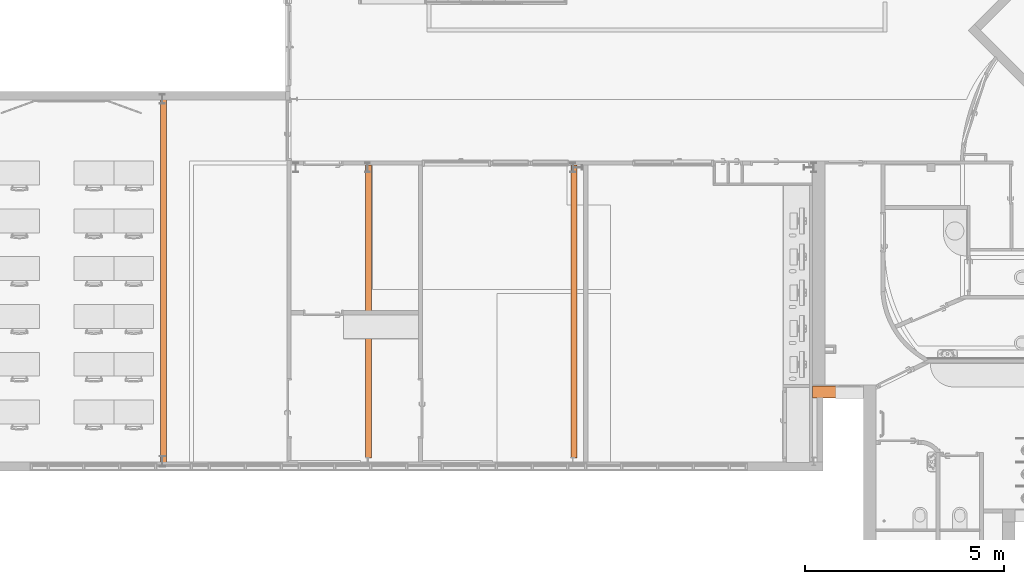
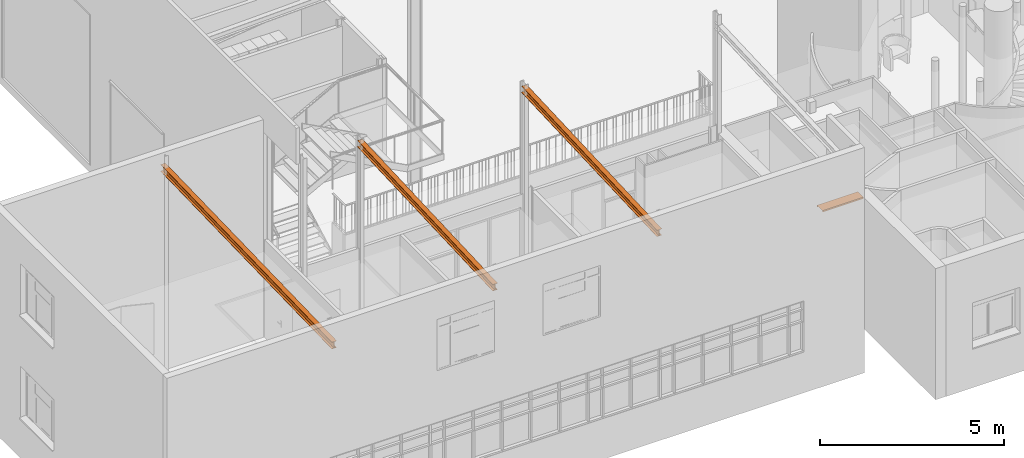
# One storey, part 127 of 137: 4 proxies.
"""IFC2X3 building model written with IfcOpenShell, lengths in centimetres."""

from ifc_helpers import new_model, entity, si_unit, converted_unit, derived_unit, direction, frame, frame_2d, origin, place, context, subcontext, project, spatial, polyline, rectangle, outline, extrude, source, transform, mapped, element, save


model = new_model("IFC2X3")

# Units and contexts
model_context = context("Model", 3, precision=0.001, world=origin(), true_north=direction((6.12303176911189e-17, 1.0)))
body_context = subcontext(model_context, "Body", "Model", "MODEL_VIEW")
ifc_project = project(units=[si_unit("LENGTHUNIT", "METRE", prefix="CENTI"), si_unit("AREAUNIT", "SQUARE_METRE"), si_unit("VOLUMEUNIT", "CUBIC_METRE"), converted_unit("PLANEANGLEUNIT", "DEGREE", entity("IfcRatioMeasure", 0.0174532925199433), si_unit("PLANEANGLEUNIT", "RADIAN"), dimensions=[0, 0, 0, 0, 0, 0, 0]), si_unit("MASSUNIT", "GRAM", prefix="KILO"), si_unit("TIMEUNIT", "SECOND"), si_unit("FREQUENCYUNIT", "HERTZ"), si_unit("THERMODYNAMICTEMPERATUREUNIT", "DEGREE_CELSIUS"), derived_unit("THERMALTRANSMITTANCEUNIT", [(si_unit("MASSUNIT", "GRAM", prefix="KILO"), 1), (si_unit("THERMODYNAMICTEMPERATUREUNIT", "KELVIN"), -1), (si_unit("TIMEUNIT", "SECOND"), -3)]), derived_unit("VOLUMETRICFLOWRATEUNIT", [(si_unit("LENGTHUNIT", "METRE"), 3), (si_unit("TIMEUNIT", "SECOND"), -1)]), si_unit("ELECTRICCURRENTUNIT", "AMPERE"), si_unit("ELECTRICVOLTAGEUNIT", "VOLT"), si_unit("POWERUNIT", "WATT"), si_unit("FORCEUNIT", "NEWTON", prefix="KILO"), si_unit("ILLUMINANCEUNIT", "LUX"), si_unit("LUMINOUSFLUXUNIT", "LUMEN"), si_unit("LUMINOUSINTENSITYUNIT", "CANDELA"), derived_unit("USERDEFINED", [(si_unit("MASSUNIT", "GRAM", prefix="KILO"), -1), (si_unit("LENGTHUNIT", "METRE"), -2), (si_unit("TIMEUNIT", "SECOND"), 3), (si_unit("LUMINOUSFLUXUNIT", "LUMEN"), 1)]), derived_unit("LINEARVELOCITYUNIT", [(si_unit("LENGTHUNIT", "METRE"), 1), (si_unit("TIMEUNIT", "SECOND"), -1)]), si_unit("PRESSUREUNIT", "PASCAL"), derived_unit("USERDEFINED", [(si_unit("LENGTHUNIT", "METRE"), -2), (si_unit("MASSUNIT", "GRAM", prefix="KILO"), 1), (si_unit("TIMEUNIT", "SECOND"), -2)])], contexts=[model_context])

# Site, building, storey
site_placement = place(None, frame((8.62739174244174, -249.285249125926, 0.0)))
site = spatial("IfcSite", under=ifc_project, at=site_placement, Name="Default", CompositionType="ELEMENT")
building_placement = place(site_placement, origin())
building = spatial("IfcBuilding", under=site, at=building_placement, CompositionType="ELEMENT")
storey_placement = place(building_placement, origin())
storey = spatial("IfcBuildingStorey", under=building, at=storey_placement, Name="RDC", CompositionType="ELEMENT", Elevation=-8.82465566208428e-11)

# Proxies
shared_shape_1 = source(origin(), body_context, "Body", "SweptSolid", [
    extrude(rectangle(XDim=0.99999999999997, YDim=14.9999999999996, at=frame_2d((2.66453525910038e-15, 4.44089209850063e-16), x_axis=(1.0, 0.0))), frame((-464.999102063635, -0.499999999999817, -4.72502125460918), z_axis=(0.999390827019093, 0.0, 0.0348994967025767), x_axis=(0.0348994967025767, 0.0, -0.999390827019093)), (0.0, 0.0, 1.0), 930.600000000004),
    extrude(rectangle(XDim=0.999999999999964, YDim=14.9999999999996, at=frame_2d((9.43689570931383e-16, 0.0), x_axis=(1.0, 0.0))), frame((-464.231313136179, -0.499999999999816, -26.7116194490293), z_axis=(0.999390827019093, 0.0, 0.0348994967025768), x_axis=(0.0348994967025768, 0.0, -0.999390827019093)), (0.0, 0.0, 1.0), 930.600000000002),
    extrude(rectangle(XDim=21.0, YDim=1.00000000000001, at=frame_2d((0.0, 8.88178419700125e-16), x_axis=(0.0, 1.0))), frame((-464.615207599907, -0.499999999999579, -15.7183203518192), z_axis=(0.999390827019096, 0.0, 0.0348994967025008), x_axis=(0.0, 1.0, 0.0)), (0.0, 0.0, 1.0), 930.600000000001),
])
proxy_1_placement = place(storey_placement, frame((533.404827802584, 480.134608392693, 649.226972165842), z_axis=(0.0, 0.00748008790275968, 0.999972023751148), x_axis=(0.0, 0.999972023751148, -0.00748008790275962)))
element("IfcBuildingElementProxy", 1, at=proxy_1_placement, inside=storey, Name="Portique_H:Portique_H", ObjectType="Portique_H", context=body_context, shape_type="MappedRepresentation", body=[
    mapped(shared_shape_1, transform((0.0, 0.0, 0.0), scale=1.0)),
])
shared_shape_2 = source(origin(), body_context, "Body", "SweptSolid", [
    extrude(rectangle(XDim=0.999999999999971, YDim=14.9999999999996, at=frame_2d((0.0, 4.44089209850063e-16), x_axis=(1.0, 0.0))), frame((-464.999102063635, -0.499999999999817, -4.72502125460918), z_axis=(0.999390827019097, 0.0, 0.0348994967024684), x_axis=(0.0348994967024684, 0.0, -0.999390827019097)), (0.0, 0.0, 1.0), 736.399999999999),
    extrude(rectangle(XDim=0.999999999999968, YDim=14.9999999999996, at=frame_2d((-2.58126853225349e-15, 0.0), x_axis=(1.0, 0.0))), frame((-464.266212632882, -0.499999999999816, -25.7122286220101), z_axis=(0.999390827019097, 0.0, 0.0348994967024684), x_axis=(0.0348994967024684, 0.0, -0.999390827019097)), (0.0, 0.0, 1.0), 736.399999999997),
    extrude(rectangle(XDim=20.0, YDim=1.00000000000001, at=frame_2d((0.0, 1.77635683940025e-15), x_axis=(0.0, 1.0))), frame((-464.632657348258, -0.499999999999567, -15.2186249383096), z_axis=(0.999390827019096, 0.0, 0.0348994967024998), x_axis=(0.0, 1.0, 0.0)), (0.0, 0.0, 1.0), 736.4),
])
for number, where, z_axis, x_axis in (
    (2, (1048.40482780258, 497.86000286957, 657.025230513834), (0.0, -0.00923739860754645, 0.999957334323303), (0.0, 0.999957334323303, 0.00923739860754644)),
    (3, (1563.40482780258, 497.860002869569, 657.025230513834), (0.0, -0.00923739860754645, 0.999957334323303), (0.0, 0.999957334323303, 0.00923739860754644)),
):
    element("IfcBuildingElementProxy", number, at=place(storey_placement, frame(where, z_axis=z_axis, x_axis=x_axis)), inside=storey, Name="Portique_D-E-G:Portique_D-E-G", ObjectType="Portique_D-E-G", context=body_context, shape_type="MappedRepresentation", body=[
        mapped(shared_shape_2, transform((0.0, 0.0, 0.0), scale=1.0)),
    ])
proxy_2_placement = place(storey_placement, origin())
element("IfcBuildingElementProxy", 4, at=proxy_2_placement, inside=storey, Name="Profil en relief:profil-couvertine-ex", ObjectType="Profil en relief:profil-couvertine-ex", context=body_context, shape_type="SweptSolid", body=[
    extrude(outline(polyline([(-3.07708620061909, -14.9798097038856), (1.92947315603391, -14.9798097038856), (0.515259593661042, -13.5655961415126), (0.444548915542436, -13.6363068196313), (1.68805179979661, -14.8798097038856), (-2.97052684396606, -14.8798097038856), (-2.97052684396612, 14.9201902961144), (1.82947315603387, 14.9201902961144), (1.82947315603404, 13.5201902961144), (1.92947315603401, 13.5201902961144), (1.92947315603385, 15.0201902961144), (-3.07708620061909, 15.0201902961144), (-3.07708620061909, -14.9798097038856)])), frame((2162.90482780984, 198.772614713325, 406.922913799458), z_axis=(1.0, 0.0, 0.0), x_axis=(0.0, 0.0, -1.0)), (0.0, 0.0, 1.0), 128.00000000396),
])

save(model, "model.ifc")
